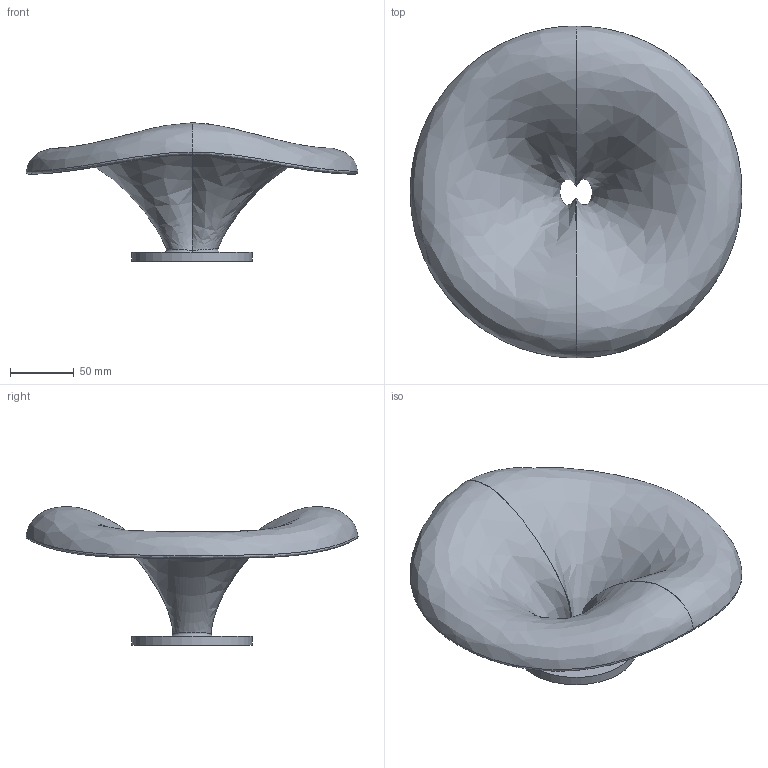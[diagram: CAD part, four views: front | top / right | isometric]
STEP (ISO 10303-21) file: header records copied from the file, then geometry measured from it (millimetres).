
FILE_DESCRIPTION(/* description */ (''),/* implementation_level */ '2;1');
FILE_NAME(/* name */ 'ST260-BLD v5 v1.step',/* time_stamp */ '2022-11-19T10:31:58+01:00',/* author */ (''),/* organization */ (''),/* preprocessor_version */ 'ST-DEVELOPER v19.2',/* originating_system */ 'Autodesk Translation Framework v11.17.0.187',/* authorisation */ '');
FILE_SCHEMA (('AUTOMOTIVE_DESIGN { 1 0 10303 214 3 1 1 }'));
Products named in the file (1): ST260-BLD v5
Bounding box: 259.44 x 259.66 x 108.32 mm (x, y, z)
Volume: 393191.8 mm3; surface area: 158272.2 mm2
Topology: 1 solids, 1 shells, 28 faces, 109 edges, 79 vertices
Faces by surface type: bspline 18, cylinder 8, plane 2
Full cylindrical faces by diameter (mm): 6.5 x7, 93.991 x1
Entity records: 50581 total; most frequent: CARTESIAN_POINT 49792, ORIENTED_EDGE 208, EDGE_CURVE 104, VERTEX_POINT 78, B_SPLINE_CURVE_WITH_KNOTS 76, DIRECTION 68, EDGE_LOOP 44, AXIS2_PLACEMENT_3D 29
